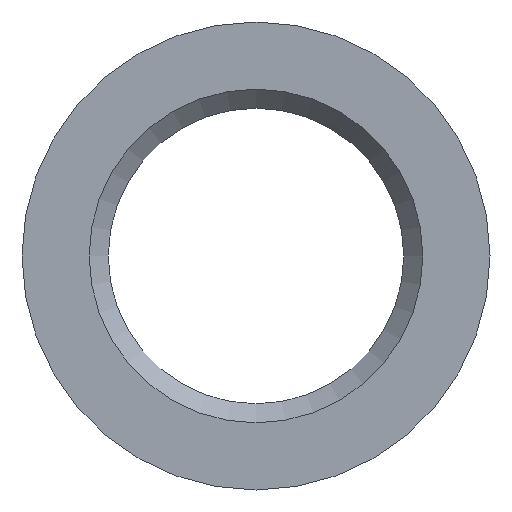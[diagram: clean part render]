
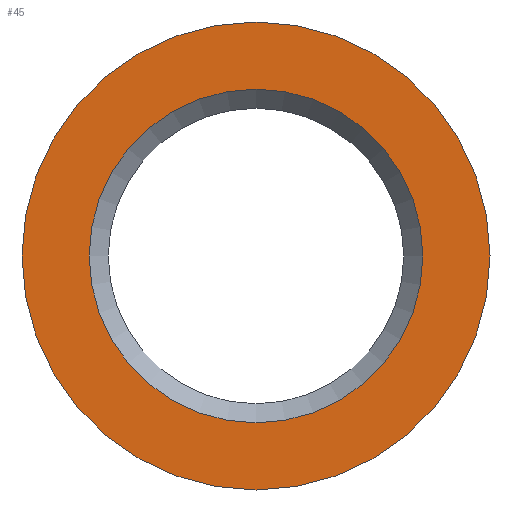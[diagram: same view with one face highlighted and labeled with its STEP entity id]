
A CAD part, front view. The second image highlights one B-rep face of the part: STEP entity #45.
In plain terms, the highlighted planar face has unit normal (0, -1, 0).
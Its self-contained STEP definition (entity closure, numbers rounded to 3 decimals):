
#45=ADVANCED_FACE('',(#72,#74),#76,.F.);
#72=FACE_BOUND('',#73,.T.);
#73=EDGE_LOOP('',(#223));
#74=FACE_BOUND('',#75,.T.);
#75=EDGE_LOOP('',(#224));
#76=PLANE('',#77);
#77=AXIS2_PLACEMENT_3D('',#78,#79,#80);
#78=CARTESIAN_POINT('',(0.,0.,0.));
#79=DIRECTION('',(0.,1.,0.));
#80=DIRECTION('',(-1.,0.,0.));
#223=ORIENTED_EDGE('',*,*,#307,.F.);
#224=ORIENTED_EDGE('',*,*,#308,.T.);
#307=EDGE_CURVE('',#362,#362,#363,.T.);
#308=EDGE_CURVE('',#364,#364,#365,.T.);
#362=VERTEX_POINT('',#467);
#363=CIRCLE('',#468,14.75);
#364=VERTEX_POINT('',#472);
#365=CIRCLE('',#473,10.516);
#467=CARTESIAN_POINT('',(-14.75,0.,0.));
#468=AXIS2_PLACEMENT_3D('',#469,#470,#471);
#469=CARTESIAN_POINT('',(0.,0.,0.));
#470=DIRECTION('',(0.,1.,0.));
#471=DIRECTION('',(-1.,0.,0.));
#472=CARTESIAN_POINT('',(-10.516,0.,0.));
#473=AXIS2_PLACEMENT_3D('',#474,#475,#476);
#474=CARTESIAN_POINT('',(0.,0.,0.));
#475=DIRECTION('',(0.,1.,0.));
#476=DIRECTION('',(-1.,0.,0.));
